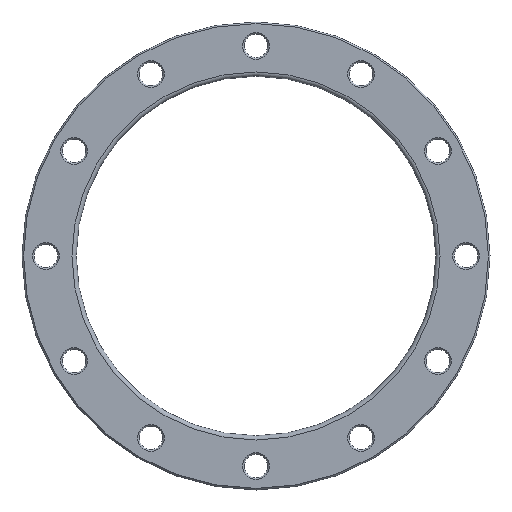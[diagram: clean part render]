
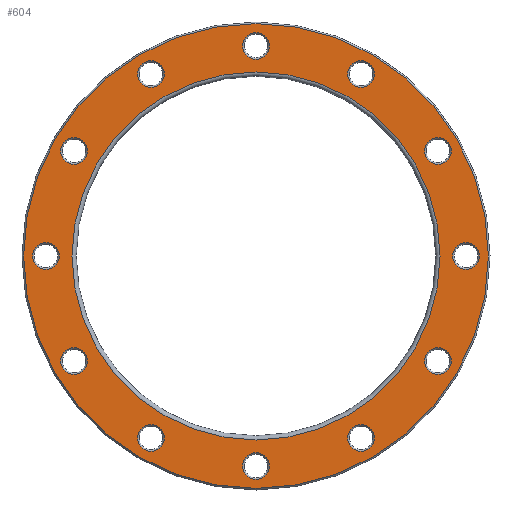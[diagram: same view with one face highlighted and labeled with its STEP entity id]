
A CAD part, front view. The second image highlights one B-rep face of the part: STEP entity #604.
In plain terms, the highlighted planar face has unit normal (0, -1, 0).
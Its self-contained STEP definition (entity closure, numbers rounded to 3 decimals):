
#23=PLANE('',#712);
#134=ORIENTED_EDGE('',*,*,#213,.T.);
#135=ORIENTED_EDGE('',*,*,#214,.T.);
#136=ORIENTED_EDGE('',*,*,#164,.T.);
#137=ORIENTED_EDGE('',*,*,#168,.T.);
#138=ORIENTED_EDGE('',*,*,#172,.T.);
#139=ORIENTED_EDGE('',*,*,#176,.T.);
#140=ORIENTED_EDGE('',*,*,#180,.T.);
#141=ORIENTED_EDGE('',*,*,#184,.T.);
#142=ORIENTED_EDGE('',*,*,#188,.T.);
#143=ORIENTED_EDGE('',*,*,#192,.T.);
#144=ORIENTED_EDGE('',*,*,#196,.T.);
#145=ORIENTED_EDGE('',*,*,#200,.T.);
#146=ORIENTED_EDGE('',*,*,#204,.T.);
#147=ORIENTED_EDGE('',*,*,#215,.T.);
#164=EDGE_CURVE('',#220,#220,#276,.T.);
#168=EDGE_CURVE('',#224,#224,#280,.T.);
#172=EDGE_CURVE('',#228,#228,#284,.T.);
#176=EDGE_CURVE('',#232,#232,#288,.T.);
#180=EDGE_CURVE('',#236,#236,#292,.T.);
#184=EDGE_CURVE('',#240,#240,#296,.T.);
#188=EDGE_CURVE('',#244,#244,#300,.T.);
#192=EDGE_CURVE('',#248,#248,#304,.T.);
#196=EDGE_CURVE('',#252,#252,#308,.T.);
#200=EDGE_CURVE('',#256,#256,#312,.T.);
#204=EDGE_CURVE('',#260,#260,#316,.T.);
#213=EDGE_CURVE('',#269,#269,#325,.F.);
#214=EDGE_CURVE('',#270,#270,#326,.T.);
#215=EDGE_CURVE('',#271,#271,#327,.T.);
#220=VERTEX_POINT('',#935);
#224=VERTEX_POINT('',#946);
#228=VERTEX_POINT('',#957);
#232=VERTEX_POINT('',#968);
#236=VERTEX_POINT('',#979);
#240=VERTEX_POINT('',#990);
#244=VERTEX_POINT('',#1001);
#248=VERTEX_POINT('',#1012);
#252=VERTEX_POINT('',#1023);
#256=VERTEX_POINT('',#1034);
#260=VERTEX_POINT('',#1045);
#269=VERTEX_POINT('',#1068);
#270=VERTEX_POINT('',#1070);
#271=VERTEX_POINT('',#1072);
#276=CIRCLE('',#629,12.5);
#280=CIRCLE('',#636,12.5);
#284=CIRCLE('',#643,12.5);
#288=CIRCLE('',#650,12.5);
#292=CIRCLE('',#657,12.5);
#296=CIRCLE('',#664,12.5);
#300=CIRCLE('',#671,12.5);
#304=CIRCLE('',#678,12.5);
#308=CIRCLE('',#685,12.5);
#312=CIRCLE('',#692,12.5);
#316=CIRCLE('',#699,12.5);
#325=CIRCLE('',#713,218.5);
#326=CIRCLE('',#714,173.);
#327=CIRCLE('',#715,12.5);
#414=EDGE_LOOP('',(#134));
#415=EDGE_LOOP('',(#135));
#416=EDGE_LOOP('',(#136));
#417=EDGE_LOOP('',(#137));
#418=EDGE_LOOP('',(#138));
#419=EDGE_LOOP('',(#139));
#420=EDGE_LOOP('',(#140));
#421=EDGE_LOOP('',(#141));
#422=EDGE_LOOP('',(#142));
#423=EDGE_LOOP('',(#143));
#424=EDGE_LOOP('',(#144));
#425=EDGE_LOOP('',(#145));
#426=EDGE_LOOP('',(#146));
#427=EDGE_LOOP('',(#147));
#526=FACE_BOUND('',#414,.T.);
#527=FACE_BOUND('',#415,.T.);
#528=FACE_BOUND('',#416,.T.);
#529=FACE_BOUND('',#417,.T.);
#530=FACE_BOUND('',#418,.T.);
#531=FACE_BOUND('',#419,.T.);
#532=FACE_BOUND('',#420,.T.);
#533=FACE_BOUND('',#421,.T.);
#534=FACE_BOUND('',#422,.T.);
#535=FACE_BOUND('',#423,.T.);
#536=FACE_BOUND('',#424,.T.);
#537=FACE_BOUND('',#425,.T.);
#538=FACE_BOUND('',#426,.T.);
#539=FACE_BOUND('',#427,.T.);
#604=ADVANCED_FACE('',(#526,#527,#528,#529,#530,#531,#532,#533,#534,#535,
#536,#537,#538,#539),#23,.F.);
#629=AXIS2_PLACEMENT_3D('',#934,#735,#736);
#636=AXIS2_PLACEMENT_3D('',#945,#749,#750);
#643=AXIS2_PLACEMENT_3D('',#956,#763,#764);
#650=AXIS2_PLACEMENT_3D('',#967,#777,#778);
#657=AXIS2_PLACEMENT_3D('',#978,#791,#792);
#664=AXIS2_PLACEMENT_3D('',#989,#805,#806);
#671=AXIS2_PLACEMENT_3D('',#1000,#819,#820);
#678=AXIS2_PLACEMENT_3D('',#1011,#833,#834);
#685=AXIS2_PLACEMENT_3D('',#1022,#847,#848);
#692=AXIS2_PLACEMENT_3D('',#1033,#861,#862);
#699=AXIS2_PLACEMENT_3D('',#1044,#875,#876);
#712=AXIS2_PLACEMENT_3D('',#1066,#901,#902);
#713=AXIS2_PLACEMENT_3D('',#1067,#903,#904);
#714=AXIS2_PLACEMENT_3D('',#1069,#905,#906);
#715=AXIS2_PLACEMENT_3D('',#1071,#907,#908);
#735=DIRECTION('',(0.,1.,0.));
#736=DIRECTION('',(0.866,0.,0.5));
#749=DIRECTION('',(0.,1.,0.));
#750=DIRECTION('',(0.5,0.,0.866));
#763=DIRECTION('',(0.,1.,0.));
#764=DIRECTION('',(0.,0.,1.));
#777=DIRECTION('',(0.,1.,0.));
#778=DIRECTION('',(-0.5,0.,0.866));
#791=DIRECTION('',(0.,1.,0.));
#792=DIRECTION('',(-0.866,0.,0.5));
#805=DIRECTION('',(0.,1.,0.));
#806=DIRECTION('',(-1.,0.,0.));
#819=DIRECTION('',(0.,1.,0.));
#820=DIRECTION('',(-0.866,0.,-0.5));
#833=DIRECTION('',(0.,1.,0.));
#834=DIRECTION('',(-0.5,0.,-0.866));
#847=DIRECTION('',(0.,1.,0.));
#848=DIRECTION('',(0.,0.,-1.));
#861=DIRECTION('',(0.,1.,0.));
#862=DIRECTION('',(0.5,0.,-0.866));
#875=DIRECTION('',(0.,1.,0.));
#876=DIRECTION('',(0.866,0.,-0.5));
#901=DIRECTION('',(0.,1.,0.));
#902=DIRECTION('',(0.,0.,1.));
#903=DIRECTION('',(0.,1.,0.));
#904=DIRECTION('',(0.,0.,1.));
#905=DIRECTION('',(0.,1.,0.));
#906=DIRECTION('',(0.,0.,1.));
#907=DIRECTION('',(0.,1.,0.));
#908=DIRECTION('',(1.,0.,0.));
#934=CARTESIAN_POINT('',(-98.75,0.,171.04));
#935=CARTESIAN_POINT('',(-87.925,0.,177.29));
#945=CARTESIAN_POINT('',(-171.04,0.,98.75));
#946=CARTESIAN_POINT('',(-164.79,0.,109.575));
#956=CARTESIAN_POINT('',(-197.5,0.,0.));
#957=CARTESIAN_POINT('',(-197.5,0.,12.5));
#967=CARTESIAN_POINT('',(-171.04,0.,-98.75));
#968=CARTESIAN_POINT('',(-177.29,0.,-87.925));
#978=CARTESIAN_POINT('',(-98.75,0.,-171.04));
#979=CARTESIAN_POINT('',(-109.575,0.,-164.79));
#989=CARTESIAN_POINT('',(0.,0.,-197.5));
#990=CARTESIAN_POINT('',(-12.5,0.,-197.5));
#1000=CARTESIAN_POINT('',(98.75,0.,-171.04));
#1001=CARTESIAN_POINT('',(87.925,0.,-177.29));
#1011=CARTESIAN_POINT('',(171.04,0.,-98.75));
#1012=CARTESIAN_POINT('',(164.79,0.,-109.575));
#1022=CARTESIAN_POINT('',(197.5,0.,0.));
#1023=CARTESIAN_POINT('',(197.5,0.,-12.5));
#1033=CARTESIAN_POINT('',(171.04,0.,98.75));
#1034=CARTESIAN_POINT('',(177.29,0.,87.925));
#1044=CARTESIAN_POINT('',(98.75,0.,171.04));
#1045=CARTESIAN_POINT('',(109.575,0.,164.79));
#1066=CARTESIAN_POINT('',(0.,0.,0.));
#1067=CARTESIAN_POINT('',(0.,0.,0.));
#1068=CARTESIAN_POINT('',(0.,0.,218.5));
#1069=CARTESIAN_POINT('',(0.,0.,0.));
#1070=CARTESIAN_POINT('',(0.,0.,173.));
#1071=CARTESIAN_POINT('',(0.,0.,197.5));
#1072=CARTESIAN_POINT('',(12.5,0.,197.5));
